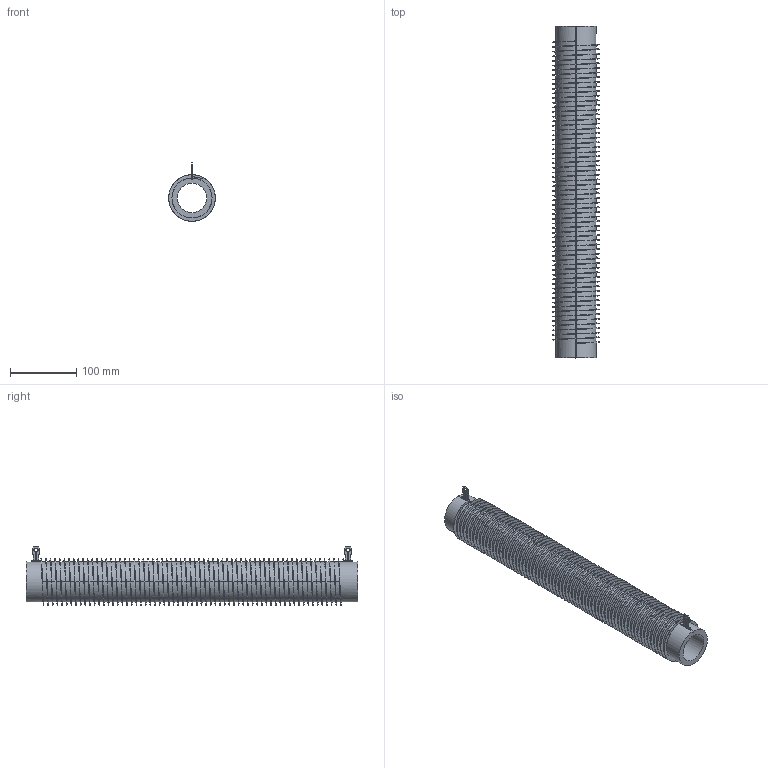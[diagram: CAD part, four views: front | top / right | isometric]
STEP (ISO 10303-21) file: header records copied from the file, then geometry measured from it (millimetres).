
FILE_DESCRIPTION(/* description */ (''),/* implementation_level */ '2;1');
FILE_NAME(/* name */ 'C:\_Vault\Dati\CATALOGO\RCPO-RSPO\RCPO-RSPO 500-1500\CPO01K5.stp',/* time_stamp */ '2014-01-22T17:09:29+01:00',/* author */ ('stefano'),/* organization */ (''),/* preprocessor_version */ 'ST-DEVELOPER v15.2',/* originating_system */ 'Autodesk Inventor 2014',/* authorisation */ '');
FILE_SCHEMA (('AUTOMOTIVE_DESIGN { 1 0 10303 214 3 1 1 }'));
Length unit declared in the file: millimetre
Products named in the file (1): CPO01K5
Bounding box: 70 x 500 x 88 mm (x, y, z)
Volume: 702160.2 mm3; surface area: 300357.3 mm2
Topology: 1 solids, 1 shells, 140 faces, 410 edges, 272 vertices
Faces by surface type: cylinder 72, plane 66, bspline 2
Full cylindrical faces by diameter (mm): 44 x1, 60.3 x65
Entity records: 15076 total; most frequent: CARTESIAN_POINT 12920, ORIENTED_EDGE 428, DIRECTION 393, EDGE_CURVE 213, LINE 171, VECTOR 171, VERTEX_POINT 142, AXIS2_PLACEMENT_3D 111
